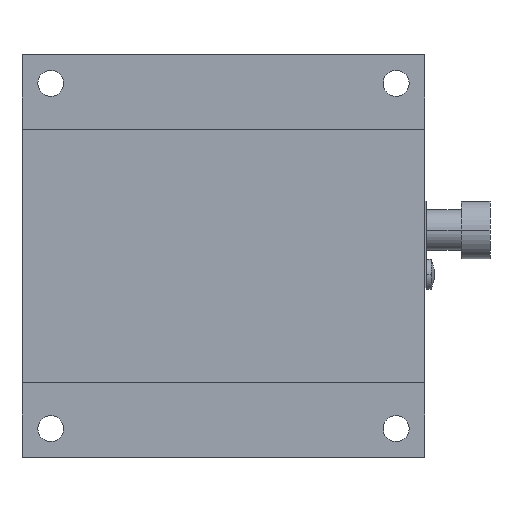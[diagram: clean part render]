
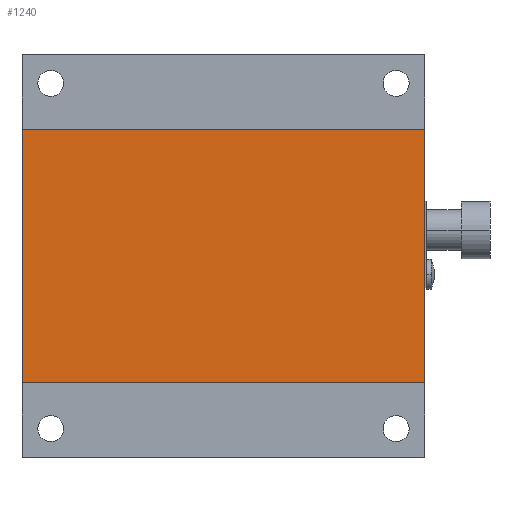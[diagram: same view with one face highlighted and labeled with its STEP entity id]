
A CAD part, front view. The second image highlights one B-rep face of the part: STEP entity #1240.
In plain terms, the highlighted planar face has unit normal (0, -1, 0).
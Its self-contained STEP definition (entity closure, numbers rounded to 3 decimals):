
#211 = VECTOR ( 'NONE', #7232, 1000. ) ;
#354 = VECTOR ( 'NONE', #2517, 1000. ) ;
#356 = VECTOR ( 'NONE', #2519, 1000. ) ;
#634 = VECTOR ( 'NONE', #3133, 1000. ) ;
#1240 = ADVANCED_FACE ( 'NONE', ( #5845 ), #5846, .F. ) ;
#1494 = EDGE_CURVE ( 'NONE', #4151, #3752, #2509, .T. ) ;
#1495 = EDGE_CURVE ( 'NONE', #4056, #3840, #2498, .T. ) ;
#2134 = EDGE_CURVE ( 'NONE', #3752, #3840, #3131, .T. ) ;
#2498 = LINE ( 'NONE', #2518, #356 ) ;
#2509 = LINE ( 'NONE', #2516, #354 ) ;
#2516 = CARTESIAN_POINT ( 'NONE',  ( 35., 0.5, -13. ) ) ;
#2517 = DIRECTION ( 'NONE',  ( -1., 0., 0. ) ) ;
#2518 = CARTESIAN_POINT ( 'NONE',  ( 35., 0.5, -57. ) ) ;
#2519 = DIRECTION ( 'NONE',  ( -1., 0., 0. ) ) ;
#3131 = LINE ( 'NONE', #3132, #634 ) ;
#3132 = CARTESIAN_POINT ( 'NONE',  ( -35., 0.5, -13. ) ) ;
#3133 = DIRECTION ( 'NONE',  ( 0., 0., -1. ) ) ;
#3693 = ORIENTED_EDGE ( 'NONE', *, *, #8474, .F. ) ;
#3698 = ORIENTED_EDGE ( 'NONE', *, *, #1495, .F. ) ;
#3703 = ORIENTED_EDGE ( 'NONE', *, *, #1494, .T. ) ;
#3752 = VERTEX_POINT ( 'NONE', #6660 ) ;
#3840 = VERTEX_POINT ( 'NONE', #6729 ) ;
#3890 = EDGE_LOOP ( 'NONE', ( #4260, #3698, #3693, #3703 ) ) ;
#4056 = VERTEX_POINT ( 'NONE', #6756 ) ;
#4151 = VERTEX_POINT ( 'NONE', #6789 ) ;
#4260 = ORIENTED_EDGE ( 'NONE', *, *, #2134, .T. ) ;
#5835 = CARTESIAN_POINT ( 'NONE',  ( 35., 0.5, -13. ) ) ;
#5845 = FACE_OUTER_BOUND ( 'NONE', #3890, .T. ) ;
#5846 = PLANE ( 'NONE',  #9499 ) ;
#5848 = DIRECTION ( 'NONE',  ( 0., 1., 0. ) ) ;
#5849 = DIRECTION ( 'NONE',  ( 0., 0., 1. ) ) ;
#6660 = CARTESIAN_POINT ( 'NONE',  ( -35., 0.5, -13. ) ) ;
#6729 = CARTESIAN_POINT ( 'NONE',  ( -35., 0.5, -57. ) ) ;
#6756 = CARTESIAN_POINT ( 'NONE',  ( 35., 0.5, -57. ) ) ;
#6789 = CARTESIAN_POINT ( 'NONE',  ( 35., 0.5, -13. ) ) ;
#7230 = LINE ( 'NONE', #7231, #211 ) ;
#7231 = CARTESIAN_POINT ( 'NONE',  ( 35., 0.5, -13. ) ) ;
#7232 = DIRECTION ( 'NONE',  ( 0., 0., -1. ) ) ;
#8474 = EDGE_CURVE ( 'NONE', #4151, #4056, #7230, .T. ) ;
#9499 = AXIS2_PLACEMENT_3D ( 'NONE', #5835, #5848, #5849 ) ;
